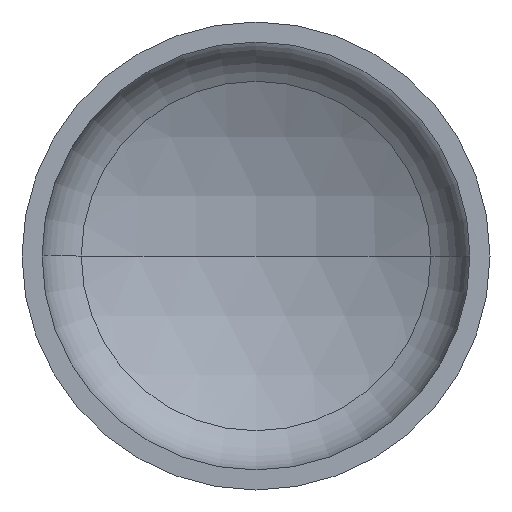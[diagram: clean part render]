
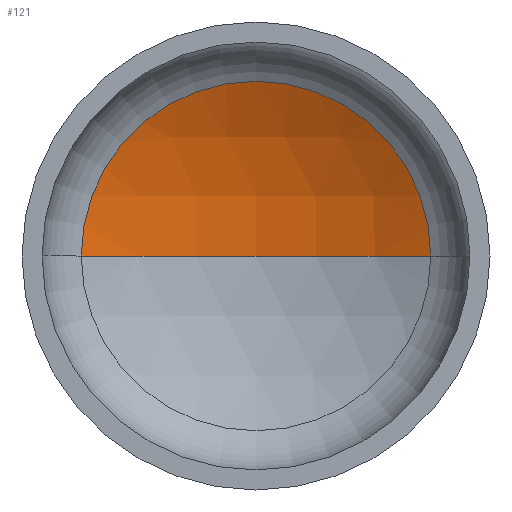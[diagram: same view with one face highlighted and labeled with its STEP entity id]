
A CAD part, front view. The second image highlights one B-rep face of the part: STEP entity #121.
In plain terms, the highlighted spherical face has radius 560 mm.
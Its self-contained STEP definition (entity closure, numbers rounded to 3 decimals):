
#15 = AXIS2_PLACEMENT_3D ( 'NONE', #257, #129, #201 ) ;
#20 = AXIS2_PLACEMENT_3D ( 'NONE', #254, #203, #375 ) ;
#28 = EDGE_LOOP ( 'NONE', ( #259, #134, #45 ) ) ;
#45 = ORIENTED_EDGE ( 'NONE', *, *, #339, .T. ) ;
#48 = AXIS2_PLACEMENT_3D ( 'NONE', #286, #185, #195 ) ;
#55 = VERTEX_POINT ( 'NONE', #251 ) ;
#109 = VERTEX_POINT ( 'NONE', #348 ) ;
#121 = ADVANCED_FACE ( 'NONE', ( #411 ), #234, .F. ) ;
#129 = DIRECTION ( 'NONE',  ( 0., 0., 1. ) ) ;
#134 = ORIENTED_EDGE ( 'NONE', *, *, #389, .T. ) ;
#145 = DIRECTION ( 'NONE',  ( -1., 0., 0. ) ) ;
#148 = VERTEX_POINT ( 'NONE', #222 ) ;
#178 = CIRCLE ( 'NONE', #250, 560. ) ;
#185 = DIRECTION ( 'NONE',  ( 0., 0., -1. ) ) ;
#186 = CIRCLE ( 'NONE', #15, 560. ) ;
#195 = DIRECTION ( 'NONE',  ( -1., 0., 0. ) ) ;
#201 = DIRECTION ( 'NONE',  ( 1., 0., 0. ) ) ;
#203 = DIRECTION ( 'NONE',  ( 0., -1., 0. ) ) ;
#222 = CARTESIAN_POINT ( 'NONE',  ( 0., 252.005, 0. ) ) ;
#234 = SPHERICAL_SURFACE ( 'NONE', #48, 560. ) ;
#250 = AXIS2_PLACEMENT_3D ( 'NONE', #302, #303, #145 ) ;
#251 = CARTESIAN_POINT ( 'NONE',  ( 261.333, 187.288, 0. ) ) ;
#254 = CARTESIAN_POINT ( 'NONE',  ( 0., 187.288, 0. ) ) ;
#257 = CARTESIAN_POINT ( 'NONE',  ( 0., -307.995, 0. ) ) ;
#259 = ORIENTED_EDGE ( 'NONE', *, *, #357, .F. ) ;
#286 = CARTESIAN_POINT ( 'NONE',  ( 0., -307.995, 0. ) ) ;
#302 = CARTESIAN_POINT ( 'NONE',  ( 0., -307.995, 0. ) ) ;
#303 = DIRECTION ( 'NONE',  ( 0., 0., -1. ) ) ;
#339 = EDGE_CURVE ( 'NONE', #55, #109, #391, .T. ) ;
#348 = CARTESIAN_POINT ( 'NONE',  ( -261.333, 187.288, 0. ) ) ;
#357 = EDGE_CURVE ( 'NONE', #148, #109, #186, .T. ) ;
#375 = DIRECTION ( 'NONE',  ( 1., 0., 0. ) ) ;
#389 = EDGE_CURVE ( 'NONE', #148, #55, #178, .T. ) ;
#391 = CIRCLE ( 'NONE', #20, 261.333 ) ;
#411 = FACE_OUTER_BOUND ( 'NONE', #28, .T. ) ;
